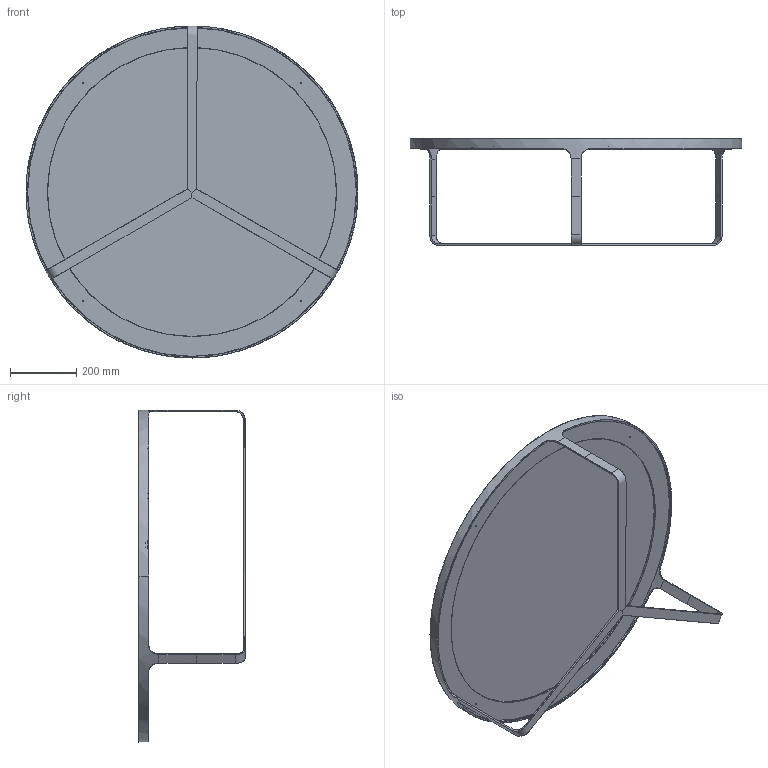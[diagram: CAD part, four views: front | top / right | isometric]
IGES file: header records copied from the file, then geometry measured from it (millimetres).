
Start section: SolidWorks IGES file using analytic representation for surfaces
Global section: file name: W:\design\GORDON GUILLAUMIER\CAGE\IGS\CAGE D100.IGS; native system: SolidWorks 2010; preprocessor: SolidWorks 2010; author: PC20; date: 150312.182311; units: millimetre
Bounding box: 1000 x 320.07 x 1000.02 mm (x, y, z)
Surface area: 2297450.3 mm2 (no closed solid volume)
Topology: 0 solids, 0 shells, 63 faces, 2360 edges, 2689 vertices
Faces by surface type: bspline 43, revolution 20
